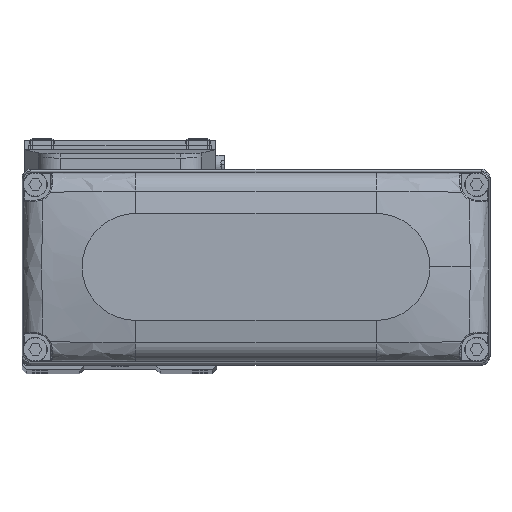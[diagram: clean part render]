
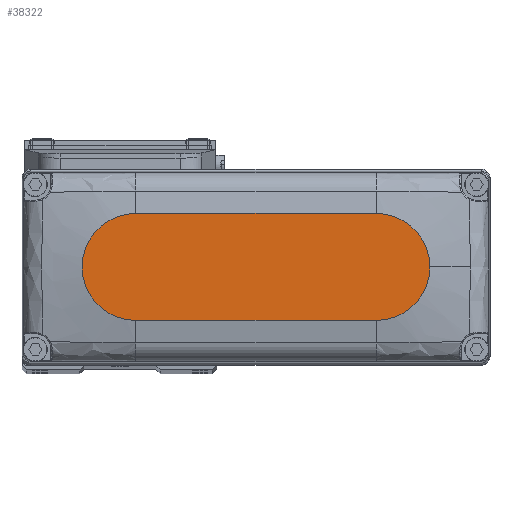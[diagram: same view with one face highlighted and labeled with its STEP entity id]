
A CAD part, top view. The second image highlights one B-rep face of the part: STEP entity #38322.
In plain terms, the highlighted planar face has unit normal (0, 0, 1).
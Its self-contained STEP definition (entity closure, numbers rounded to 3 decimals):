
#3488 = EDGE_LOOP ( 'NONE', ( #72072, #58289, #49094, #32148, #29732 ) ) ;
#5120 = LINE ( 'NONE', #29042, #21246 ) ;
#6773 = AXIS2_PLACEMENT_3D ( 'NONE', #72320, #18604, #42512 ) ;
#7455 = DIRECTION ( 'NONE',  ( 1., 0., 0. ) ) ;
#8342 = AXIS2_PLACEMENT_3D ( 'NONE', #19459, #43362, #67284 ) ;
#9470 = CARTESIAN_POINT ( 'NONE',  ( 0., 0., 25. ) ) ;
#11836 = AXIS2_PLACEMENT_3D ( 'NONE', #9470, #33383, #57311 ) ;
#14173 = EDGE_CURVE ( 'NONE', #73611, #35723, #5120, .T. ) ;
#18604 = DIRECTION ( 'NONE',  ( 0., 0., 1. ) ) ;
#19459 = CARTESIAN_POINT ( 'NONE',  ( -27., 0., 25. ) ) ;
#19751 = VERTEX_POINT ( 'NONE', #77479 ) ;
#21246 = VECTOR ( 'NONE', #52982, 1000. ) ;
#23342 = CARTESIAN_POINT ( 'NONE',  ( 27., 0., 25. ) ) ;
#25302 = EDGE_CURVE ( 'NONE', #35723, #19751, #42159, .T. ) ;
#25463 = AXIS2_PLACEMENT_3D ( 'NONE', #23342, #47229, #71156 ) ;
#29042 = CARTESIAN_POINT ( 'NONE',  ( -27., 12., 25. ) ) ;
#29732 = ORIENTED_EDGE ( 'NONE', *, *, #69090, .T. ) ;
#30568 = CIRCLE ( 'NONE', #6773, 12. ) ;
#32022 = VERTEX_POINT ( 'NONE', #76521 ) ;
#32148 = ORIENTED_EDGE ( 'NONE', *, *, #57533, .T. ) ;
#33383 = DIRECTION ( 'NONE',  ( 0., 0., 1. ) ) ;
#35723 = VERTEX_POINT ( 'NONE', #38010 ) ;
#37284 = LINE ( 'NONE', #61195, #64114 ) ;
#38010 = CARTESIAN_POINT ( 'NONE',  ( -27., 12., 25. ) ) ;
#38322 = ADVANCED_FACE ( 'NONE', ( #39274 ), #63201, .T. ) ;
#39274 = FACE_OUTER_BOUND ( 'NONE', #3488, .T. ) ;
#42159 = CIRCLE ( 'NONE', #8342, 12. ) ;
#42512 = DIRECTION ( 'NONE',  ( 1., 0., 0. ) ) ;
#43362 = DIRECTION ( 'NONE',  ( 0., 0., 1. ) ) ;
#47229 = DIRECTION ( 'NONE',  ( 0., 0., 1. ) ) ;
#49094 = ORIENTED_EDGE ( 'NONE', *, *, #66303, .T. ) ;
#52265 = CARTESIAN_POINT ( 'NONE',  ( 27., -12., 25. ) ) ;
#52569 = CARTESIAN_POINT ( 'NONE',  ( 27., 12., 25. ) ) ;
#52982 = DIRECTION ( 'NONE',  ( -1., 0., 0. ) ) ;
#57311 = DIRECTION ( 'NONE',  ( 1., 0., 0. ) ) ;
#57533 = EDGE_CURVE ( 'NONE', #68121, #32022, #59281, .T. ) ;
#58289 = ORIENTED_EDGE ( 'NONE', *, *, #25302, .T. ) ;
#59281 = CIRCLE ( 'NONE', #25463, 12. ) ;
#61195 = CARTESIAN_POINT ( 'NONE',  ( -27., -12., 25. ) ) ;
#63201 = PLANE ( 'NONE',  #11836 ) ;
#64114 = VECTOR ( 'NONE', #7455, 1000. ) ;
#66303 = EDGE_CURVE ( 'NONE', #19751, #68121, #37284, .T. ) ;
#67284 = DIRECTION ( 'NONE',  ( 1., 0., 0. ) ) ;
#68121 = VERTEX_POINT ( 'NONE', #52265 ) ;
#69090 = EDGE_CURVE ( 'NONE', #32022, #73611, #30568, .T. ) ;
#71156 = DIRECTION ( 'NONE',  ( 1., 0., 0. ) ) ;
#72072 = ORIENTED_EDGE ( 'NONE', *, *, #14173, .T. ) ;
#72320 = CARTESIAN_POINT ( 'NONE',  ( 27., 0., 25. ) ) ;
#73611 = VERTEX_POINT ( 'NONE', #52569 ) ;
#76521 = CARTESIAN_POINT ( 'NONE',  ( 39., 0., 25. ) ) ;
#77479 = CARTESIAN_POINT ( 'NONE',  ( -27., -12., 25. ) ) ;
